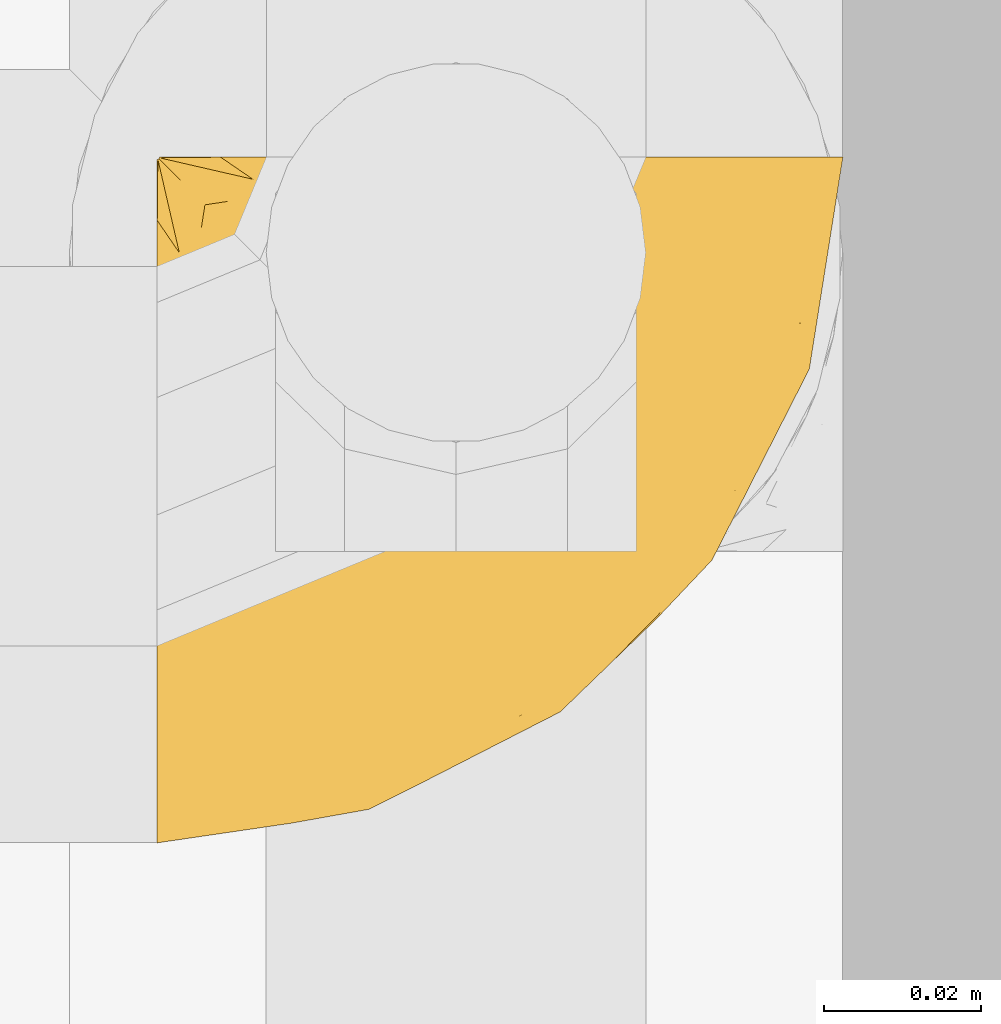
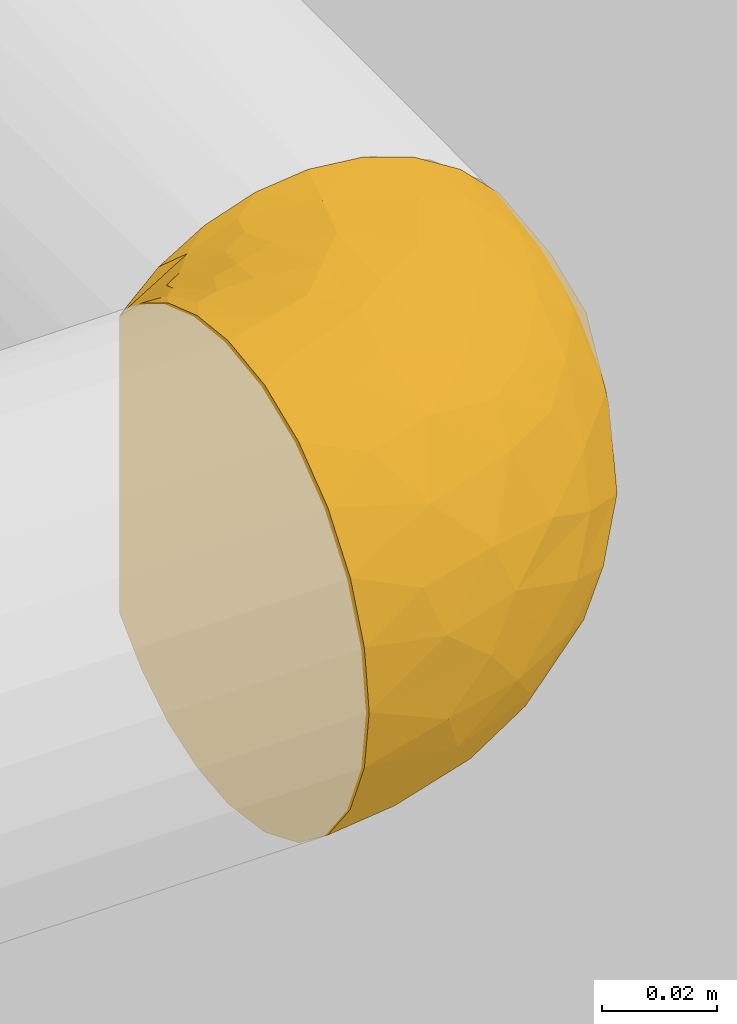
# One storey, part 65 of 94: 1 covering.
"""IFC2X3 building model written with IfcOpenShell, lengths in millimetres."""

from ifc_helpers import new_model, entity, si_unit, converted_unit, derived_unit, direction, frame, origin, place, context, subcontext, project, spatial, faceted_brep, material, element, save


model = new_model("IFC2X3")

# Units and contexts
model_context = context("Model", 3, precision=0.01, world=origin(), true_north=direction((6.123031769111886e-17, 1.0)))
body_context = subcontext(model_context, "Body", "Model", "MODEL_VIEW")
ifc_project = project(units=[si_unit("LENGTHUNIT", "METRE", prefix="MILLI"), si_unit("AREAUNIT", "SQUARE_METRE"), si_unit("VOLUMEUNIT", "CUBIC_METRE"), converted_unit("PLANEANGLEUNIT", "DEGREE", entity("IfcRatioMeasure", 0.017453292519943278), si_unit("PLANEANGLEUNIT", "RADIAN"), dimensions=[0, 0, 0, 0, 0, 0, 0]), si_unit("MASSUNIT", "GRAM", prefix="KILO"), derived_unit("MASSDENSITYUNIT", [(si_unit("MASSUNIT", "GRAM", prefix="KILO"), 1), (si_unit("LENGTHUNIT", "METRE"), -3)]), derived_unit("IONCONCENTRATIONUNIT", [(si_unit("MASSUNIT", "GRAM", prefix="KILO"), 1), (si_unit("LENGTHUNIT", "METRE"), -3)]), derived_unit("MOMENTOFINERTIAUNIT", [(si_unit("LENGTHUNIT", "METRE"), 4)]), si_unit("TIMEUNIT", "SECOND"), si_unit("FREQUENCYUNIT", "HERTZ"), si_unit("THERMODYNAMICTEMPERATUREUNIT", "DEGREE_CELSIUS"), derived_unit("THERMALTRANSMITTANCEUNIT", [(si_unit("MASSUNIT", "GRAM", prefix="KILO"), 1), (si_unit("THERMODYNAMICTEMPERATUREUNIT", "KELVIN"), -1), (si_unit("TIMEUNIT", "SECOND"), -3)]), derived_unit("THERMALCONDUCTANCEUNIT", [(si_unit("MASSUNIT", "GRAM", prefix="KILO"), 1), (si_unit("THERMODYNAMICTEMPERATUREUNIT", "KELVIN"), -1), (si_unit("TIMEUNIT", "SECOND"), -3), (si_unit("LENGTHUNIT", "METRE"), 1)]), derived_unit("VOLUMETRICFLOWRATEUNIT", [(si_unit("LENGTHUNIT", "METRE"), 3), (si_unit("TIMEUNIT", "SECOND"), -1)]), derived_unit("MASSFLOWRATEUNIT", [(si_unit("MASSUNIT", "GRAM", prefix="KILO"), 1), (si_unit("TIMEUNIT", "SECOND"), -1)]), derived_unit("ROTATIONALFREQUENCYUNIT", [(si_unit("TIMEUNIT", "SECOND"), -1)]), si_unit("ELECTRICCURRENTUNIT", "AMPERE"), si_unit("ELECTRICVOLTAGEUNIT", "VOLT"), si_unit("POWERUNIT", "WATT"), si_unit("FORCEUNIT", "NEWTON", prefix="KILO"), si_unit("ILLUMINANCEUNIT", "LUX"), si_unit("LUMINOUSFLUXUNIT", "LUMEN"), si_unit("LUMINOUSINTENSITYUNIT", "CANDELA"), derived_unit("USERDEFINED", [(si_unit("MASSUNIT", "GRAM", prefix="KILO"), -1), (si_unit("LENGTHUNIT", "METRE"), -2), (si_unit("TIMEUNIT", "SECOND"), 3), (si_unit("LUMINOUSFLUXUNIT", "LUMEN"), 1)]), derived_unit("USERDEFINED", [(si_unit("MASSUNIT", "GRAM", prefix="KILO"), 1), (si_unit("TIMEUNIT", "SECOND"), -3), (si_unit("LENGTHUNIT", "METRE"), 3), (si_unit("ELECTRICCURRENTUNIT", "AMPERE"), -2)]), derived_unit("SOUNDPOWERUNIT", [(si_unit("MASSUNIT", "GRAM", prefix="KILO"), 1), (si_unit("TIMEUNIT", "SECOND"), -3), (si_unit("LENGTHUNIT", "METRE"), 2)]), derived_unit("SOUNDPRESSUREUNIT", [(si_unit("MASSUNIT", "GRAM", prefix="KILO"), 1), (si_unit("LENGTHUNIT", "METRE"), -1), (si_unit("TIMEUNIT", "SECOND"), -2)]), derived_unit("LINEARVELOCITYUNIT", [(si_unit("LENGTHUNIT", "METRE"), 1), (si_unit("TIMEUNIT", "SECOND"), -1)]), si_unit("PRESSUREUNIT", "PASCAL"), derived_unit("USERDEFINED", [(si_unit("MASSUNIT", "GRAM", prefix="KILO"), 1), (si_unit("LENGTHUNIT", "METRE"), -2), (si_unit("TIMEUNIT", "SECOND"), -2)]), derived_unit("LINEARFORCEUNIT", [(si_unit("MASSUNIT", "GRAM", prefix="KILO"), 1), (si_unit("TIMEUNIT", "SECOND"), -2)]), derived_unit("PLANARFORCEUNIT", [(si_unit("MASSUNIT", "GRAM", prefix="KILO"), 1), (si_unit("LENGTHUNIT", "METRE"), -1), (si_unit("TIMEUNIT", "SECOND"), -2)]), derived_unit("SPECIFICHEATCAPACITYUNIT", [(si_unit("THERMODYNAMICTEMPERATUREUNIT", "KELVIN"), -1), (si_unit("LENGTHUNIT", "METRE"), 2), (si_unit("TIMEUNIT", "SECOND"), -2)]), derived_unit("HEATINGVALUEUNIT", [(si_unit("LENGTHUNIT", "METRE"), 2), (si_unit("TIMEUNIT", "SECOND"), -2)]), derived_unit("VAPORPERMEABILITYUNIT", [(si_unit("LENGTHUNIT", "METRE"), -1), (si_unit("TIMEUNIT", "SECOND"), 1)]), derived_unit("DYNAMICVISCOSITYUNIT", [(si_unit("MASSUNIT", "GRAM", prefix="KILO"), 1), (si_unit("TIMEUNIT", "SECOND"), -1), (si_unit("LENGTHUNIT", "METRE"), -1)]), derived_unit("THERMALEXPANSIONCOEFFICIENTUNIT", [(si_unit("THERMODYNAMICTEMPERATUREUNIT", "KELVIN"), -1)]), derived_unit("MODULUSOFELASTICITYUNIT", [(si_unit("MASSUNIT", "GRAM", prefix="KILO"), 1), (si_unit("LENGTHUNIT", "METRE"), -1), (si_unit("TIMEUNIT", "SECOND"), -2)]), derived_unit("ISOTHERMALMOISTURECAPACITYUNIT", [(si_unit("LENGTHUNIT", "METRE"), 3), (si_unit("MASSUNIT", "GRAM", prefix="KILO"), -1)]), derived_unit("MOISTUREDIFFUSIVITYUNIT", [(si_unit("TIMEUNIT", "SECOND"), -1), (si_unit("LENGTHUNIT", "METRE"), 2)])], contexts=[model_context])

# Site, building, storey
site_placement = place(None, origin())
site = spatial("IfcSite", under=ifc_project, at=site_placement, Name="Default", CompositionType="ELEMENT")
building_placement = place(site_placement, origin())
building = spatial("IfcBuilding", under=site, at=building_placement, CompositionType="ELEMENT")
storey_placement = place(building_placement, origin())
storey = spatial("IfcBuildingStorey", under=building, at=storey_placement, Name="Niveau 0", CompositionType="ELEMENT", Elevation=0.0)

# Covering
ifc_material = material(Name="Isolation - Laine minérale")
covering_placement = place(storey_placement, frame((-5828.485851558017, 9800.225167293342, 629.6221079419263)))
element("IfcCovering", 1, at=covering_placement, inside=storey, material=ifc_material, Name="Isolation des canalisations:Laine minérale", ObjectType="Isolation des canalisations:Laine minérale", PredefinedType="INSULATION", context=body_context, shape_type="Brep", body=[
    faceted_brep([(60.93905121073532, 88.7449321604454, -6.472853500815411), (70.25726607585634, 88.74497911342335, -12.33176345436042), (78.03708264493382, 88.7450407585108, -20.11632147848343), (83.88934088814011, 88.74511400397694, -29.43608163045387), (87.52124468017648, 88.7451951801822, -39.824110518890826), (88.750867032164, 88.74528018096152, -50.754909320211), (87.51607924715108, 88.74536487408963, -61.69713726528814), (83.87732169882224, 88.74544489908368, -72.08749170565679), (78.01841174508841, 88.74551624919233, -81.40570657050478), (70.23385372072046, 88.74557535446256, -89.18552313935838), (60.91409356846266, 88.74561925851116, -95.03778138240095), (50.526064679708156, 88.74564576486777, -98.66968517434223), (39.59526587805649, 88.74565354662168, -99.89930752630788), (28.9363156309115, 88.74564274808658, -98.72836407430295), (18.788495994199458, 88.74561432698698, -95.27534178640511), (9.632739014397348, 88.74556964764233, -89.70612732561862), (1.9108974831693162, 88.74551091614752, -82.29591893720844), (1.9111760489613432, 88.74549195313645, -79.85164976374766), (1.911378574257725, 88.74547816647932, -78.07459617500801), (1.911581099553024, 88.74546437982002, -76.29754258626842), (1.9117520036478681, 88.74545274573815, -74.79794849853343), (1.9119229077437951, 88.7454411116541, -73.29835441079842), (1.9122647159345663, 88.74541784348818, -70.29916623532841), (1.91260652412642, 88.7453945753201, -67.29997805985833), (1.9129483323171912, 88.74537130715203, -64.30078988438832), (1.9132901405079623, 88.74534803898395, -61.30160170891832), (1.9134610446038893, 88.74533640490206, -59.80200762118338), (1.9136319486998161, 88.74532477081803, -58.30241353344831), (1.9139105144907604, 88.74530580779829, -55.858144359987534), (1.914189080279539, 88.74528684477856, -53.41387518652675), (1.914467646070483, 88.74526788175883, -50.96960601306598), (1.9147462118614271, 88.7452489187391, -48.525336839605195), (1.9150247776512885, 88.74522995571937, -46.08106766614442), (1.91530334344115, 88.7452109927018, -43.636798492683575), (1.915581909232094, 88.7451920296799, -41.192529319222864), (1.9158604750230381, 88.74517306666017, -38.74826014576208), (1.9161390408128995, 88.7451541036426, -36.30399097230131), (1.9164176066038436, 88.7451351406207, -33.85972179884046), (1.916696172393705, 88.74511617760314, -31.41545262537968), (1.9169747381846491, 88.7450972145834, -28.9711834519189), (1.9172533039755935, 88.74507825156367, -26.526914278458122), (1.9175318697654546, 88.74505928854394, -24.082645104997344), (1.917810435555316, 88.7450403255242, -21.638375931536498), (1.9180890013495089, 88.7450213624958, -19.19410675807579), (9.658234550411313, 88.7449650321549, -11.772888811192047), (18.820081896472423, 88.7449233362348, -6.208523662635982), (28.96771020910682, 88.74489823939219, -2.763284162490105), (39.60646882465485, 88.7448909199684, -1.59930816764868), (50.548696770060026, 88.74490225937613, -2.834095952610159), (1.597277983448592, 88.43189136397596, -82.29588562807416), (1.5964326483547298, 80.69887724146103, -89.71325912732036), (1.5957983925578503, 71.54219744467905, -95.27852214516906), (1.5954053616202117, 61.39706004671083, -98.72716315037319), (1.5952722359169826, 50.745653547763, -99.89527159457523), (1.5954630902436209, 38.024684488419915, -98.22062465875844), (1.596022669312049, 26.170602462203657, -93.31061089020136), (1.5969128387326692, 15.99124356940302, -85.4998396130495), (1.5980729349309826, 8.180314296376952, -75.3206019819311), (1.5994238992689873, 3.270116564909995, -63.46659621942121), (1.600873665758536, 1.5952722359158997, -50.74565322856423), (1.6023234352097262, 3.269919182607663, -38.0246842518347), (1.6036744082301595, 8.17993298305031, -26.170602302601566), (1.6048345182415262, 15.990704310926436, -15.991243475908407), (1.6057247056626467, 26.169942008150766, -8.180314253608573), (1.6062843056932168, 38.023947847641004, -3.270116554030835), (1.6064751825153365, 50.74489092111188, -1.5952722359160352), (1.6063420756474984, 61.39631554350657, -2.7632154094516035), (1.6059490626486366, 71.54150645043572, -6.2116989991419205), (1.6053148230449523, 80.69827259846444, -11.776819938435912), (1.6044695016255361, 88.43140181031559, -19.19407344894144), (1.6041909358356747, 88.43142077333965, -21.6383426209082), (1.6040200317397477, 88.43143240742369, -23.137936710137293), (1.6037952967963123, 88.43144770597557, -25.10986834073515), (1.6035705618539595, 88.4314630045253, -27.081799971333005), (1.6033458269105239, 88.43147830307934, -29.05373160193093), (1.6031210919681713, 88.43149360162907, -31.02566323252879), (1.6028963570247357, 88.43150890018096, -32.997594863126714), (1.6026716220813, 88.43152419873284, -34.969526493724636), (1.6024468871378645, 88.43153949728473, -36.941458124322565), (1.6022221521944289, 88.43155479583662, -38.91338975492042), (1.6019974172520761, 88.4315700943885, -40.88532138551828), (1.6017726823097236, 88.43158539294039, -42.8572530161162), (1.601547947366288, 88.43160069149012, -44.82918464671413), (1.6013232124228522, 88.431615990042, -46.80111627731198), (1.6010984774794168, 88.43163128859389, -48.77304790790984), (1.600873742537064, 88.43164658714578, -50.744979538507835), (1.6006490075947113, 88.43166188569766, -52.71691116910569), (1.6004242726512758, 88.43167718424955, -54.68884279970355), (1.6001995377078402, 88.43169248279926, -56.66077443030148), (1.5999748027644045, 88.43170778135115, -58.6327060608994), (1.599750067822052, 88.43172307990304, -60.604637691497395), (1.5995253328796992, 88.43173837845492, -62.57656932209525), (1.5993005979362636, 88.43175367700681, -64.54850095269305), (1.5990758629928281, 88.4317689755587, -66.52043258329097), (1.598734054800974, 88.43179224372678, -69.51962076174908), (1.59839224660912, 88.4318155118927, -72.5188089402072), (1.5981136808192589, 88.4318344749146, -74.96307811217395), (1.5978351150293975, 88.43185343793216, -77.40734728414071), (1.5975565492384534, 88.43187240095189, -79.85161645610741), (1.8155875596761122, 88.51632733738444, -47.7369346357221), (1.8241617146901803, 88.52490564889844, -49.6575097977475), (1.8261468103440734, 88.52573223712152, -40.01737192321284), (1.819826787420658, 88.51921465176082, -37.92744754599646), (1.8049078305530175, 88.50738075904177, -53.489246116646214), (1.81410214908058, 88.512316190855, -24.240274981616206), (1.8582540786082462, 88.56102782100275, -20.791134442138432), (1.827096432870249, 88.52911019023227, -59.05220294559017), (1.8194583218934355, 88.52371995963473, -78.62950654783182), (1.8176962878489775, 88.52175139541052, -76.79006565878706), (1.8319638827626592, 88.53054748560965, -30.120183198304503), (1.8219851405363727, 88.52014089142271, -28.086431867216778), (1.8407339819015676, 88.54412534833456, -57.08027271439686), (1.8150383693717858, 88.51763130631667, -63.562559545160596), (1.8117240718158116, 88.51432627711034, -61.67719173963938), (1.8286073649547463, 88.5315489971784, -65.53449260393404), (1.8168915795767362, 88.51801853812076, -51.730969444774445), (1.825867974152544, 88.52328363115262, -22.388164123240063), (1.816841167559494, 88.52135182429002, -80.46270811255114), (1.8100587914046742, 88.51106220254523, -45.81517315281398), (1.8105774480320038, 88.51023379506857, -33.98358333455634), (1.815108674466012, 88.51453459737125, -35.87572491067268), (1.8099865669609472, 88.51337738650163, -67.38569824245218), (1.813221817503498, 88.51370874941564, -43.938098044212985), (1.814023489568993, 88.51245061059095, -26.095857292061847), (1.8262319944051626, 88.52325885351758, -19.194098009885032), (1.8548620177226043, 88.59237786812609, -19.19410073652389), (1.8834920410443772, 88.66149688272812, -19.194103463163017), (1.8190404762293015, 88.52374840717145, -82.29591018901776), (1.749921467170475, 88.49511837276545, -82.29590253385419), (1.6808024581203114, 88.46648833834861, -82.29589487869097), (1.8340273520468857, 88.5380280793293, -69.27812452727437), (1.817851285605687, 88.51665279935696, -32.054678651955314), (1.8231659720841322, 88.52458568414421, -55.24198550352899), (1.8224384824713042, 88.52224774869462, -41.999659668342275), (1.8379222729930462, 88.54292967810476, -72.07102887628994), (1.816048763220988, 88.5198212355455, -74.04814251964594), (1.6879939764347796, 88.46599878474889, -19.19408269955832), (1.7571129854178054, 88.4946288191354, -19.19409035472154), (1.8763005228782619, 88.66198643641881, -82.2959156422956), (1.8476704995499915, 88.59286742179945, -82.29591291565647), (5.120040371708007, 66.84568248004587, -97.28053796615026), (4.4052478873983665, 76.59310866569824, -92.74648680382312), (9.262762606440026, 67.93112183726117, -97.28100171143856), (7.2086026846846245, 79.77833395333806, -91.5353767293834), (11.09527152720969, 53.291170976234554, -99.89633453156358), (34.50423410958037, 69.74565402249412, -99.89887472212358), (23.945161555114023, 74.32076587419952, -98.55740977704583), (22.400437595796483, 81.07922644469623, -97.27922865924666), (20.595270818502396, 55.83668840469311, -99.89739746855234), (9.667639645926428, 80.67297383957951, -92.08591917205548), (10.5525762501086, 83.13794589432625, -91.52782811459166), (16.01960080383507, 66.39617034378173, -98.55642401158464), (23.48613473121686, 85.22151272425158, -97.27932018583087), (13.737995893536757, 85.93797348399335, -92.74100287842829), (10.691888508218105, 72.79938435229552, -95.8007825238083), (37.59733885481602, 81.28928434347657, -99.89913767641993), (37.0497499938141, 79.24565378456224, -99.89909112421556), (16.729181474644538, 73.6120472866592, -97.00946952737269), (27.549752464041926, 62.79117121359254, -99.89813609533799), (16.461130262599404, 78.26933312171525, -95.72596714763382), (15.10799350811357, 42.38601660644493, -98.80791762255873), (36.49401608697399, 31.441152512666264, -90.36309190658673), (31.206224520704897, 17.673062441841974, -80.66952705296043), (19.175578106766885, 23.139290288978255, -89.74080677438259), (23.335516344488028, 36.26105428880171, -96.15654142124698), (11.460457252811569, 32.799789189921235, -96.15521447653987), (52.82635903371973, 18.239443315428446, -50.75136211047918), (28.531705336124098, 5.8606974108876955, -50.748689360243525), (36.4697561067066, 10.092611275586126, -61.15509413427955), (64.5564538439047, 76.48943497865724, -92.37327627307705), (54.09667149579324, 75.17562235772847, -97.14529239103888), (60.78120105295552, 29.563029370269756, -68.8504987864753), (59.57238808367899, 34.95491930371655, -77.72836426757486), (75.05219833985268, 46.44329147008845, -65.88362885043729), (19.031253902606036, 4.2141331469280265, -59.79675742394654), (43.10281260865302, 17.109018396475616, -70.98571600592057), (46.83894841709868, 25.593385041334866, -79.74746421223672), (15.052883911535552, 12.937045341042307, -80.66772278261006), (23.241271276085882, 8.193520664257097, -69.55695793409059), (53.242982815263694, 37.511700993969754, -85.51218642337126), (45.82626687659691, 41.46190144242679, -91.98595448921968), (56.63688450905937, 49.73363187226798, -90.09105557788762), (46.28909083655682, 61.570960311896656, -97.77202134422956), (60.29731845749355, 62.89242528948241, -92.37289681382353), (72.02984245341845, 70.5404545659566, -85.51406961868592), (84.48544621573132, 61.814447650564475, -50.75463213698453), (83.30288556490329, 67.6250559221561, -66.99437352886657), (64.72800398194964, 48.023311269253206, -82.9618245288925), (74.45624690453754, 56.65692502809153, -76.910607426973), (79.74275125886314, 73.5337800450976, -76.91107921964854), (51.841033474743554, 19.26205613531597, -62.420651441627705), (65.00000903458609, 30.008122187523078, -59.151745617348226), (37.17715021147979, 56.96759982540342, -98.93129870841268), (24.431975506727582, 46.339834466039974, -98.83550977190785), (72.10670429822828, 37.51979180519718, -50.75340985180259), (37.64620019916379, 46.875474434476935, -96.77223371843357), (32.172394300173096, 11.140223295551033, -31.940174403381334), (18.646239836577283, 4.095587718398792, -41.90774110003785), (35.77284918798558, 9.502403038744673, -41.629332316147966), (47.849848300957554, 17.812265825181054, -35.35817263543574), (15.285933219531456, 6.466419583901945, -31.938284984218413), (65.82496440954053, 54.54162098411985, -16.004511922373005), (64.56302179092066, 42.31986792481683, -22.509194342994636), (74.47089195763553, 56.652979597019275, -24.61137211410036), (53.26031331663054, 37.501828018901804, -16.003588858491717), (54.63592340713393, 30.584350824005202, -23.21008154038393), (54.11991974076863, 75.17017143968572, -4.361548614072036), (16.346585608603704, 33.88175867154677, -5.338403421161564), (83.31169243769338, 67.6257482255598, -34.52798670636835), (21.108692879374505, 14.263171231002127, -20.8271537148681), (60.32037340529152, 62.88557357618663, -9.140214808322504), (64.58063839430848, 76.48621657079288, -9.140595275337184), (13.475186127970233, 21.869583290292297, -11.753531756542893), (18.24641356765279, 45.13839090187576, -2.3685755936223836), (20.606473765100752, 55.835925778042, -1.597398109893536), (11.106474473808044, 53.29040834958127, -1.5963351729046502), (9.062844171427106, 52.74281919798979, -1.5961065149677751), (41.93896550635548, 22.251776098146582, -21.87052294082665), (27.725059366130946, 26.047521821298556, -11.755122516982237), (59.12636535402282, 24.329220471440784, -41.98914511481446), (60.78786220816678, 29.560211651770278, -32.66292521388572), (9.809815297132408, 42.30285728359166, -2.457571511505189), (79.75784641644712, 73.53123788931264, -24.611843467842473), (41.93867641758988, 37.17731913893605, -9.991385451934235), (25.55423991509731, 39.36934028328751, -4.58644581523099), (26.71406521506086, 48.675235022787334, -2.4833481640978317), (75.06062022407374, 46.439578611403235, -35.642428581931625), (72.05059551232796, 70.53659870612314, -16.005475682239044), (46.30163204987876, 61.55345707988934, -3.7316692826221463), (34.51543705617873, 69.74489139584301, -1.598875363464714), (34.51085830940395, 54.16007817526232, -2.5731258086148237), (27.560955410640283, 62.790408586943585, -1.5981367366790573), (37.60854180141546, 81.28852171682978, -1.5991383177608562), (37.060952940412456, 79.24489115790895, -1.5990917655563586), (50.2445746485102, 48.93918126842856, -8.34618187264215), (42.67739590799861, 29.42349691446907, -15.404314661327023), (34.96181752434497, 44.39957496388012, -4.816225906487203), (9.273369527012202, 67.93040102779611, -4.211023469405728), (12.08560479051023, 73.87594098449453, -5.7649353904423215), (16.03086266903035, 66.39688272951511, -2.9374089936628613), (5.130647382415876, 66.84496103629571, -4.210559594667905), (4.414821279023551, 76.59245752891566, -8.74429661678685), (7.218220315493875, 79.77535581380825, -9.954545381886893), (7.668657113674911, 82.68360465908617, -11.378222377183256), (16.73434710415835, 73.61670759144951, -4.486897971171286), (10.593023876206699, 83.12370744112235, -9.94166102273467), (22.432995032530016, 81.07699693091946, -4.208411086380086), (23.518100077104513, 85.22058798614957, -4.208502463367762), (13.766442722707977, 85.93433648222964, -8.740179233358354), (23.953881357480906, 74.32154650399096, -2.9384954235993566), (17.567453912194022, 79.648047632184, -5.686307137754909)], [[[0, 1, 2, 3, 4, 5, 6, 7, 8, 9, 10, 11, 12, 13, 14, 15, 16, 17, 18, 19, 20, 21, 22, 23, 24, 25, 26, 27, 28, 29, 30, 31, 32, 33, 34, 35, 36, 37, 38, 39, 40, 41, 42, 43, 44, 45, 46, 47, 48]], [[49, 50, 51, 52, 53, 54, 55, 56, 57, 58, 59, 60, 61, 62, 63, 64, 65, 66, 67, 68, 69, 70, 71, 72, 73, 74, 75, 76, 77, 78, 79, 80, 81, 82, 83, 84, 85, 86, 87, 88, 89, 90, 91, 92, 93, 94, 95, 96, 97, 98]], [[99, 100, 84]], [[101, 102, 35]], [[86, 103, 87]], [[72, 71, 104]], [[105, 70, 69]], [[27, 26, 106]], [[18, 107, 108]], [[109, 74, 110]], [[28, 27, 111]], [[25, 112, 113]], [[108, 97, 96]], [[114, 93, 92]], [[103, 86, 115]], [[97, 107, 98]], [[116, 71, 70]], [[107, 17, 117]], [[79, 102, 101]], [[99, 118, 32]], [[77, 119, 120]], [[121, 93, 114]], [[112, 91, 113]], [[89, 111, 106]], [[40, 39, 110]], [[107, 97, 108]], [[32, 118, 122]], [[92, 91, 112]], [[37, 120, 119]], [[85, 115, 86]], [[70, 105, 116]], [[72, 123, 73]], [[105, 124, 125, 126, 43]], [[117, 17, 16]], [[41, 116, 42]], [[117, 127, 128, 129, 49]], [[110, 123, 40]], [[42, 116, 105]], [[121, 23, 130]], [[24, 114, 112]], [[114, 24, 23]], [[104, 123, 72]], [[92, 112, 114]], [[104, 116, 41]], [[24, 112, 25]], [[110, 73, 123]], [[36, 120, 37]], [[40, 123, 41]], [[75, 74, 109]], [[131, 76, 75]], [[119, 131, 37]], [[109, 110, 39]], [[109, 39, 38]], [[74, 73, 110]], [[123, 104, 41]], [[116, 104, 71]], [[26, 25, 113]], [[113, 90, 106]], [[88, 87, 132]], [[113, 106, 26]], [[77, 76, 119]], [[132, 111, 88]], [[106, 111, 27]], [[132, 28, 111]], [[88, 111, 89]], [[89, 106, 90]], [[113, 91, 90]], [[131, 119, 76]], [[38, 37, 131]], [[120, 36, 102]], [[131, 109, 38]], [[109, 131, 75]], [[79, 78, 102]], [[78, 120, 102]], [[78, 77, 120]], [[122, 81, 133]], [[36, 35, 102]], [[33, 122, 133]], [[80, 79, 101]], [[34, 101, 35]], [[132, 29, 28]], [[81, 80, 133]], [[29, 103, 115]], [[30, 29, 115]], [[87, 103, 132]], [[100, 115, 85]], [[31, 30, 100]], [[115, 100, 30]], [[32, 31, 99]], [[118, 82, 122]], [[100, 85, 84]], [[99, 83, 118]], [[82, 118, 83]], [[33, 32, 122]], [[83, 99, 84]], [[100, 99, 31]], [[34, 33, 133]], [[122, 82, 81]], [[133, 101, 34]], [[101, 133, 80]], [[134, 95, 94]], [[23, 121, 114]], [[132, 103, 29]], [[121, 94, 93]], [[94, 121, 130]], [[98, 107, 117]], [[108, 20, 19, 18]], [[21, 135, 134]], [[20, 135, 21]], [[134, 135, 95]], [[108, 96, 135]], [[108, 135, 20]], [[135, 96, 95]], [[134, 22, 21]], [[130, 22, 134]], [[42, 105, 43]], [[105, 69, 136, 137, 124]], [[98, 117, 49]], [[117, 16, 138, 139, 127]], [[18, 17, 107]], [[94, 130, 134]], [[22, 130, 23]], [[140, 141, 142]], [[143, 129, 128, 127]], [[53, 52, 144]], [[145, 146, 147]], [[142, 148, 144]], [[149, 127, 150]], [[51, 140, 52]], [[142, 151, 148]], [[52, 140, 144]], [[129, 143, 141]], [[14, 13, 152]], [[147, 150, 153]], [[154, 141, 143]], [[150, 138, 153]], [[14, 152, 153]], [[16, 15, 138]], [[13, 12, 155, 156]], [[151, 154, 157]], [[158, 157, 146]], [[156, 147, 152]], [[14, 153, 15]], [[50, 49, 129]], [[50, 129, 141]], [[141, 51, 50]], [[159, 147, 146]], [[145, 147, 156]], [[138, 15, 153]], [[149, 157, 154]], [[150, 127, 139, 138]], [[141, 140, 51]], [[144, 140, 142]], [[156, 152, 13]], [[153, 152, 147]], [[148, 151, 158]], [[159, 146, 157]], [[146, 145, 158]], [[154, 151, 142]], [[158, 151, 157]], [[127, 149, 143]], [[159, 149, 150]], [[149, 159, 157]], [[147, 159, 150]], [[141, 154, 142]], [[154, 143, 149]], [[155, 12, 11]], [[53, 144, 160]], [[161, 162, 163]], [[160, 164, 165]], [[166, 167, 168]], [[55, 163, 56]], [[169, 170, 10]], [[171, 172, 173]], [[58, 174, 59]], [[171, 175, 176]], [[177, 57, 56]], [[55, 165, 163]], [[168, 178, 175]], [[57, 177, 178]], [[165, 55, 54]], [[179, 180, 181]], [[182, 145, 170]], [[170, 183, 182]], [[184, 183, 169]], [[184, 9, 8]], [[170, 145, 156, 155]], [[170, 11, 10]], [[171, 176, 172]], [[6, 185, 186]], [[187, 184, 188]], [[189, 184, 8]], [[173, 188, 186]], [[166, 190, 191]], [[187, 188, 172]], [[57, 178, 58]], [[8, 7, 189]], [[186, 7, 6]], [[6, 5, 185]], [[188, 189, 186]], [[158, 192, 193]], [[173, 185, 194]], [[175, 178, 162]], [[10, 9, 169]], [[174, 178, 168]], [[155, 11, 170]], [[161, 163, 164]], [[177, 163, 162]], [[183, 187, 181]], [[144, 193, 160]], [[182, 195, 192]], [[186, 189, 7]], [[184, 189, 188]], [[184, 169, 9]], [[170, 169, 183]], [[185, 173, 186]], [[191, 173, 194]], [[195, 161, 164]], [[161, 179, 176]], [[193, 164, 160]], [[182, 183, 181]], [[176, 175, 162]], [[175, 190, 168]], [[175, 171, 190]], [[174, 168, 167]], [[59, 174, 167]], [[58, 178, 174]], [[191, 190, 171]], [[166, 168, 190]], [[173, 191, 171]], [[166, 191, 194]], [[161, 176, 162]], [[182, 192, 145]], [[176, 179, 172]], [[187, 172, 179]], [[173, 172, 188]], [[181, 187, 179]], [[184, 187, 183]], [[180, 179, 161]], [[181, 180, 182]], [[161, 195, 180]], [[182, 180, 195]], [[163, 177, 56]], [[178, 177, 162]], [[54, 53, 160]], [[163, 165, 164]], [[54, 160, 165]], [[193, 144, 148]], [[158, 193, 148]], [[195, 164, 193]], [[193, 192, 195]], [[145, 192, 158]], [[196, 197, 198]], [[59, 167, 197]], [[196, 198, 199]], [[197, 196, 200]], [[201, 202, 203]], [[61, 60, 200]], [[204, 205, 202]], [[0, 48, 206]], [[207, 64, 63]], [[185, 4, 208]], [[200, 209, 61]], [[210, 211, 206]], [[62, 212, 63]], [[213, 214, 215, 216]], [[3, 208, 4]], [[217, 218, 209]], [[219, 220, 199]], [[65, 64, 221]], [[3, 2, 222]], [[223, 224, 218]], [[62, 61, 209]], [[208, 3, 222]], [[5, 4, 185]], [[225, 213, 224]], [[202, 226, 203]], [[2, 1, 227]], [[228, 210, 206]], [[203, 222, 227]], [[1, 0, 211]], [[203, 227, 201]], [[206, 229, 228]], [[230, 229, 231]], [[226, 208, 203]], [[211, 227, 1]], [[201, 227, 210]], [[48, 47, 232]], [[206, 232, 233, 229]], [[208, 226, 185]], [[212, 207, 63]], [[48, 232, 206]], [[207, 213, 221]], [[204, 234, 223]], [[234, 210, 228]], [[217, 209, 196]], [[212, 209, 218]], [[231, 225, 230]], [[234, 204, 201]], [[217, 196, 199]], [[235, 204, 223]], [[206, 211, 0]], [[227, 211, 210]], [[227, 222, 2]], [[208, 222, 203]], [[219, 226, 220]], [[185, 226, 194]], [[230, 234, 228]], [[225, 231, 214]], [[223, 234, 236]], [[234, 201, 210]], [[202, 201, 204]], [[204, 235, 205]], [[226, 202, 220]], [[199, 205, 217]], [[220, 202, 205]], [[224, 223, 236]], [[235, 218, 217]], [[209, 212, 62]], [[207, 212, 218]], [[197, 200, 60]], [[209, 200, 196]], [[59, 197, 60]], [[197, 167, 198]], [[167, 166, 198]], [[219, 199, 198]], [[219, 198, 166]], [[199, 220, 205]], [[166, 194, 219]], [[226, 219, 194]], [[218, 235, 223]], [[205, 235, 217]], [[221, 213, 216]], [[224, 213, 207]], [[218, 224, 207]], [[225, 224, 236]], [[225, 236, 230]], [[213, 225, 214]], [[234, 230, 236]], [[229, 230, 228]], [[65, 221, 216]], [[207, 221, 64]], [[66, 65, 216, 215]], [[214, 237, 215]], [[238, 237, 239]], [[67, 240, 241]], [[242, 136, 241]], [[243, 137, 242]], [[243, 244, 245]], [[66, 240, 67]], [[136, 69, 68]], [[136, 68, 241]], [[246, 229, 233]], [[67, 241, 68]], [[215, 237, 240]], [[45, 247, 46]], [[214, 239, 237]], [[246, 247, 248]], [[46, 247, 233]], [[249, 250, 244]], [[239, 231, 244]], [[229, 246, 249]], [[250, 248, 245]], [[44, 43, 126]], [[237, 242, 241]], [[248, 45, 44]], [[44, 126, 248]], [[46, 233, 232, 47]], [[245, 126, 125]], [[126, 245, 248]], [[243, 124, 137]], [[215, 240, 66]], [[241, 240, 237]], [[248, 247, 45]], [[233, 247, 246]], [[229, 249, 231]], [[238, 239, 244]], [[239, 214, 231]], [[250, 249, 246]], [[231, 249, 244]], [[243, 242, 238]], [[136, 242, 137]], [[124, 243, 125]], [[125, 243, 245]], [[243, 238, 244]], [[237, 238, 242]], [[248, 250, 246]], [[244, 250, 245]]]),
])

save(model, "model.ifc")
